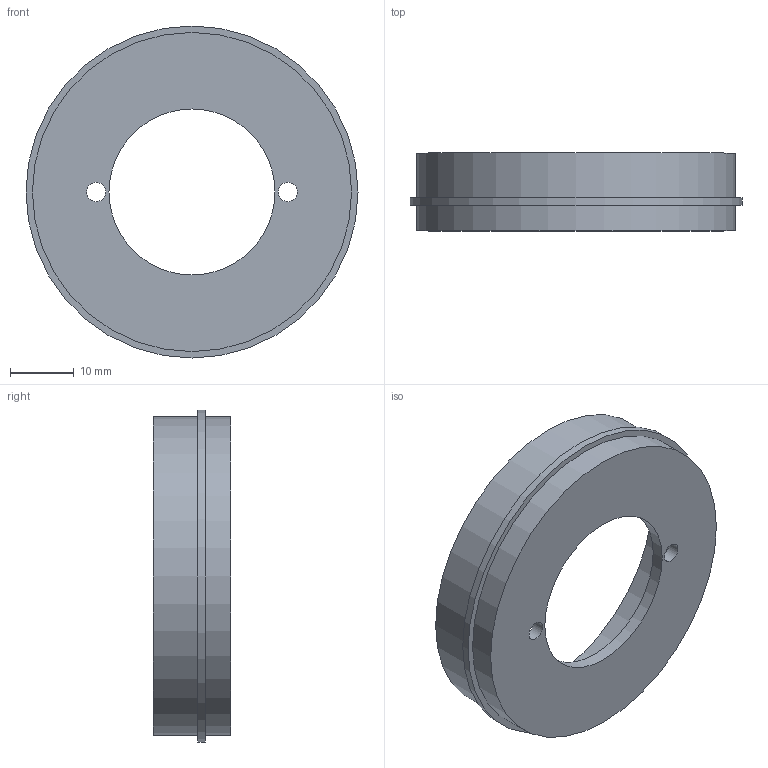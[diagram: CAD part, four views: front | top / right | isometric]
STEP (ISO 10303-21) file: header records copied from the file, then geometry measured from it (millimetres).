
FILE_DESCRIPTION(/* description */ ('STEP AP242 Edition 2','CAx-IF Rec.Pracs.---Representation and Presentation of Product Manufacturing Information (PMI)---4.0---2014-10-13','CAx-IF Rec.Pracs.---3D Tessellated Geometry---0.4---2014-09-14','2;1','CAx-IF Rec.Pracs.---User Defined Attributes---1.5---2016-08-15'),/* implementation_level */ '2;1');
FILE_NAME(/* name */ 'Main Assembly - Part 1 (6)',/* time_stamp */ '2026-06-22T17:37:58Z',/* author */ (''),/* organization */ (''),/* preprocessor_version */ 'ST-DEVELOPER v20',/* originating_system */ 'ONSHAPE BY PTC INC, 1.216',/* authorisation */ ' ');
FILE_SCHEMA (('AP242_MANAGED_MODEL_BASED_3D_ENGINEERING_MIM_LF { 1 0 10303 442 3 1 4 }'));
Length unit declared in the file: metre
Products named in the file (1): Part 1
Bounding box: 52 x 12.19 x 52 mm (x, y, z)
Volume: 6098.4 mm3; surface area: 6751.7 mm2
Topology: 1 solids, 1 shells, 12 faces, 22 edges, 15 vertices
Faces by surface type: cylinder 7, plane 5
Full cylindrical faces by diameter (mm): 3 x2, 26 x1, 46 x1, 50 x2, 52 x1
Entity records: 298 total; most frequent: DIRECTION 54, CARTESIAN_POINT 41, ORIENTED_EDGE 28, EDGE_LOOP 28, FACE_BOUND 28, AXIS2_PLACEMENT_3D 27, EDGE_CURVE 14, VERTEX_POINT 14
